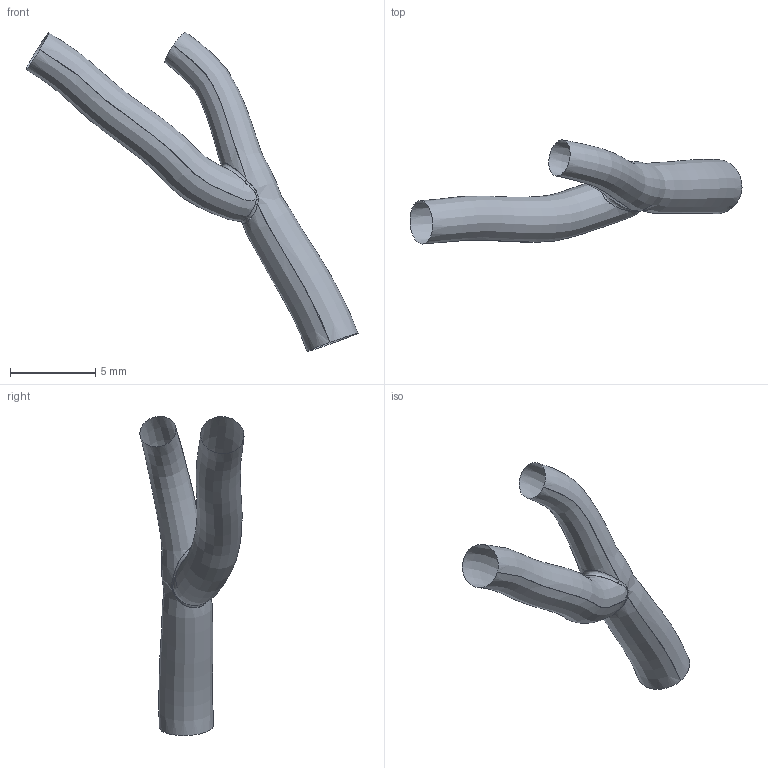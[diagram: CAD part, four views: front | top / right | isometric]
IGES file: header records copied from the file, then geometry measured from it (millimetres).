
Global section: file name: C:\Documents and Settings\Administrator\Desktop\FDA Bifurcation win\RawData_for_IGES\HRCA_Data\19990218.103146\IGES\19990218.103146.PDA.BIFUR.ES.igs; native system: Rhinoceros ( May 19 2006 ); preprocessor: Trout Lake IGES 012 May 19 2006; date: 100728.194715; units: centimetre
Bounding box: 19.47 x 6.11 x 18.72 mm (x, y, z)
Surface area: 289.1 mm2 (no closed solid volume)
Topology: 0 solids, 0 shells, 5 faces, 66 edges, 63 vertices
Faces by surface type: bspline 5
